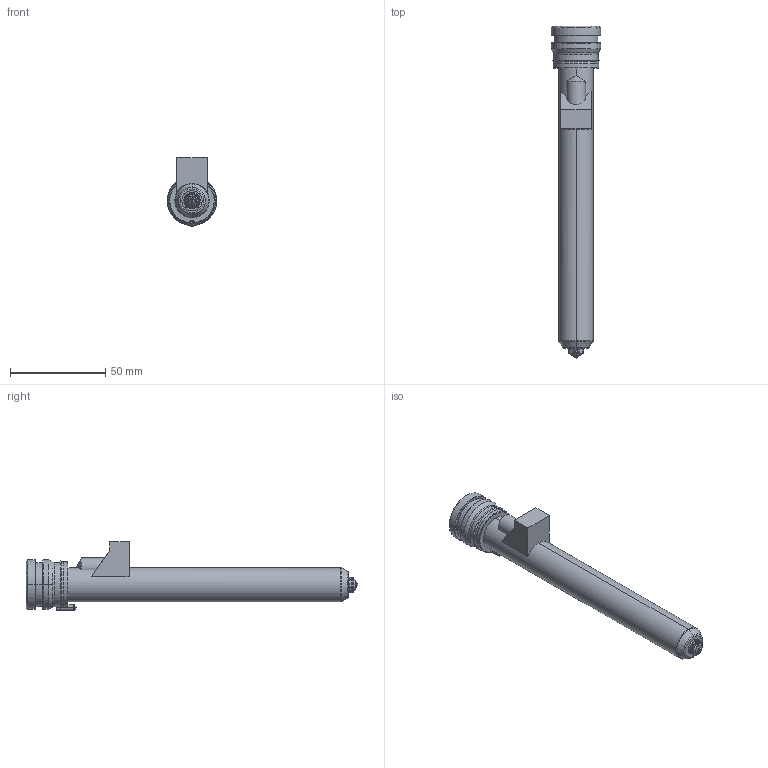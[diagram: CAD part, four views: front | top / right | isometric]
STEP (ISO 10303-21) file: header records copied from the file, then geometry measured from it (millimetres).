
FILE_DESCRIPTION((''),'2;1');
FILE_NAME('TH18156-M-1GLT-PK-JG','2023-12-14T',('umhib'),('Thermoplay S.p.A.'),'PRO/ENGINEER BY PARAMETRIC TECHNOLOGY CORPORATION, 2017170','PRO/ENGINEER BY PARAMETRIC TECHNOLOGY CORPORATION, 2017170','');
FILE_SCHEMA(('CONFIG_CONTROL_DESIGN'));
Length unit declared in the file: millimetre
Products named in the file (1): TH18156-M-1GLT-PK-JG
Bounding box: 26 x 174 x 36.1 mm (x, y, z)
Volume: 35094.8 mm3; surface area: 26715.4 mm2
Topology: 1 solids, 2 shells, 413 faces, 1052 edges, 647 vertices
Faces by surface type: cylinder 160, plane 92, cone 64, torus 64, bspline 22, sphere 9, extrusion 2
Entity records: 16927 total; most frequent: CARTESIAN_POINT 4929, DIRECTION 2166, ORIENTED_EDGE 2078, EDGE_CURVE 1041, AXIS2_PLACEMENT_3D 881, VERTEX_POINT 647, CIRCLE 491, EDGE_LOOP 441
